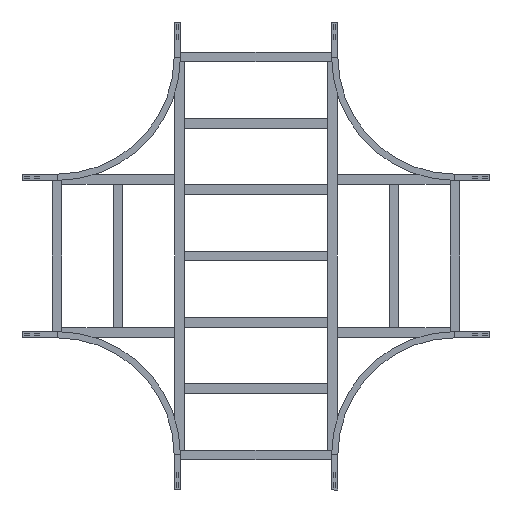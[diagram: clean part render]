
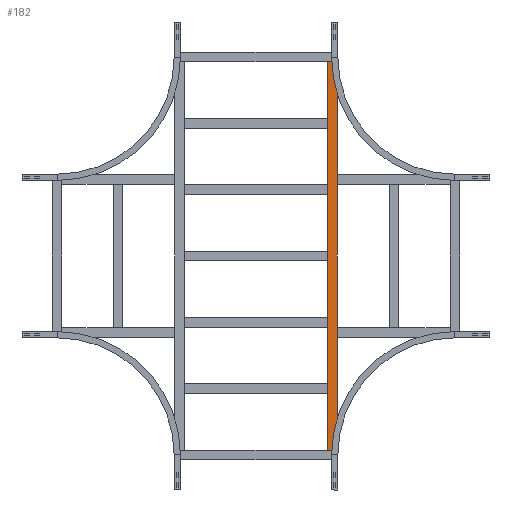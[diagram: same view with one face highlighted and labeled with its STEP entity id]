
A CAD part, front view. The second image highlights one B-rep face of the part: STEP entity #182.
In plain terms, the highlighted planar face has unit normal (0, -1, 0).
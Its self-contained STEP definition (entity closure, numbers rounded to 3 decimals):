
#39 = ORIENTED_EDGE ( 'NONE', *, *, #45, .T. ) ;
#40 = LINE ( 'NONE', #979, #212 ) ;
#45 = EDGE_CURVE ( 'NONE', #1909, #666, #814, .T. ) ;
#54 = PLANE ( 'NONE',  #1056 ) ;
#182 = ADVANCED_FACE ( 'NONE', ( #2748 ), #54, .F. ) ;
#188 = CARTESIAN_POINT ( 'NONE',  ( 829.75, 0., -20.25 ) ) ;
#212 = VECTOR ( 'NONE', #273, 1000. ) ;
#246 = DIRECTION ( 'NONE',  ( 0., 0., 1. ) ) ;
#273 = DIRECTION ( 'NONE',  ( -1., 0., 0. ) ) ;
#384 = EDGE_CURVE ( 'NONE', #1996, #862, #843, .T. ) ;
#473 = DIRECTION ( 'NONE',  ( 0., 1., 0. ) ) ;
#481 = EDGE_LOOP ( 'NONE', ( #39, #1283, #993, #1372 ) ) ;
#650 = CARTESIAN_POINT ( 'NONE',  ( 829.75, 0., -20.25 ) ) ;
#666 = VERTEX_POINT ( 'NONE', #1418 ) ;
#753 = EDGE_CURVE ( 'NONE', #862, #666, #1945, .T. ) ;
#814 = LINE ( 'NONE', #1716, #2590 ) ;
#843 = LINE ( 'NONE', #2653, #2397 ) ;
#862 = VERTEX_POINT ( 'NONE', #650 ) ;
#979 = CARTESIAN_POINT ( 'NONE',  ( 829.75, 0., 20.25 ) ) ;
#993 = ORIENTED_EDGE ( 'NONE', *, *, #384, .F. ) ;
#1056 = AXIS2_PLACEMENT_3D ( 'NONE', #1873, #473, #246 ) ;
#1283 = ORIENTED_EDGE ( 'NONE', *, *, #753, .F. ) ;
#1372 = ORIENTED_EDGE ( 'NONE', *, *, #1819, .T. ) ;
#1418 = CARTESIAN_POINT ( 'NONE',  ( -829.75, 0., -20.25 ) ) ;
#1438 = DIRECTION ( 'NONE',  ( 0., 0., -1. ) ) ;
#1510 = DIRECTION ( 'NONE',  ( 0., 0., -1. ) ) ;
#1716 = CARTESIAN_POINT ( 'NONE',  ( -829.75, 0., 20.25 ) ) ;
#1732 = DIRECTION ( 'NONE',  ( -1., 0., 0. ) ) ;
#1819 = EDGE_CURVE ( 'NONE', #1996, #1909, #40, .T. ) ;
#1873 = CARTESIAN_POINT ( 'NONE',  ( 829.75, 0., 20.25 ) ) ;
#1909 = VERTEX_POINT ( 'NONE', #2802 ) ;
#1945 = LINE ( 'NONE', #188, #2351 ) ;
#1996 = VERTEX_POINT ( 'NONE', #2023 ) ;
#2023 = CARTESIAN_POINT ( 'NONE',  ( 829.75, 0., 20.25 ) ) ;
#2351 = VECTOR ( 'NONE', #1732, 1000. ) ;
#2397 = VECTOR ( 'NONE', #1510, 1000. ) ;
#2590 = VECTOR ( 'NONE', #1438, 1000. ) ;
#2653 = CARTESIAN_POINT ( 'NONE',  ( 829.75, 0., 20.25 ) ) ;
#2748 = FACE_OUTER_BOUND ( 'NONE', #481, .T. ) ;
#2802 = CARTESIAN_POINT ( 'NONE',  ( -829.75, 0., 20.25 ) ) ;
